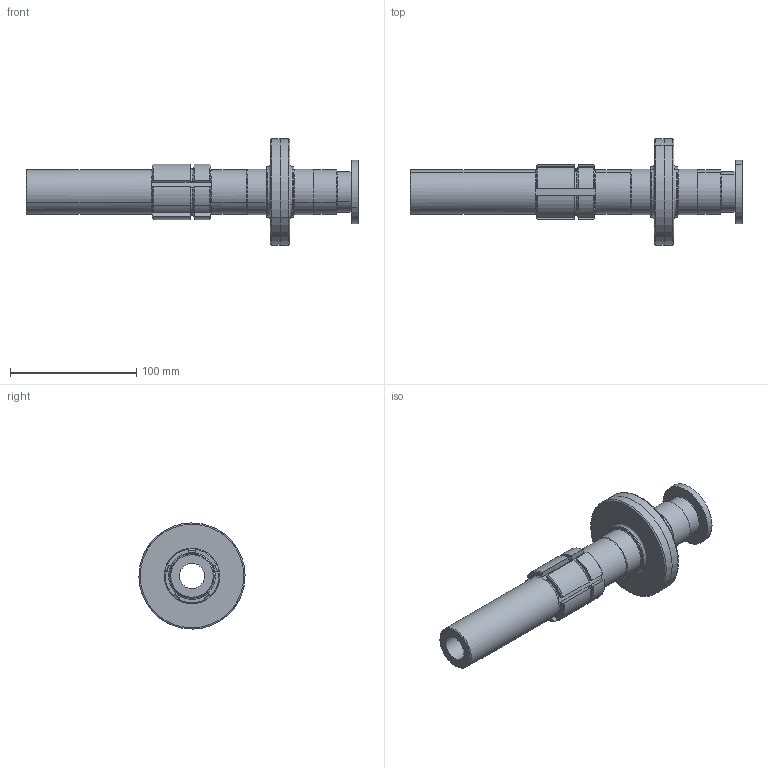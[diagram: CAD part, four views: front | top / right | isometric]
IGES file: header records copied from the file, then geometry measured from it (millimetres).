
Start section: START RECORD GO HERE.
Global section: file name: VIS.igs; native system: IBM CATIA IGES - CATIA Version 5 Release 18 ; preprocessor: CATIA Version 5 Release 18 ; author: Propriétaire; organization: FUJITSU-79916BB; date: 20090111.192038; units: millimetre
Bounding box: 262.64 x 83.98 x 83.98 mm (x, y, z)
Surface area: 64658.4 mm2 (no closed solid volume)
Topology: 0 solids, 0 shells, 145 faces, 726 edges, 726 vertices
Faces by surface type: revolution 102, plane 43
